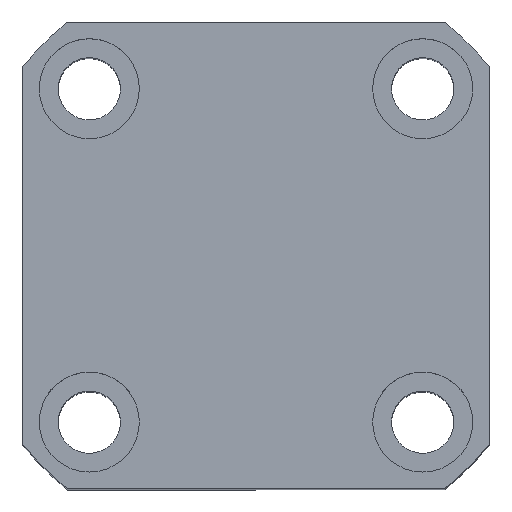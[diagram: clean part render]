
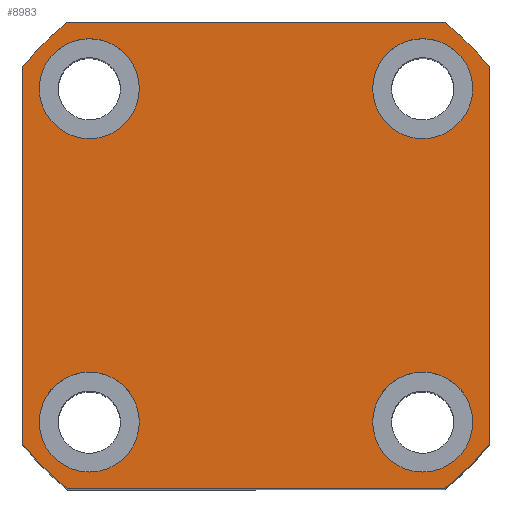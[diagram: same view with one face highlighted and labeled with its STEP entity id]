
A CAD part, top view. The second image highlights one B-rep face of the part: STEP entity #8983.
In plain terms, the highlighted planar face has unit normal (0, 0, 1).
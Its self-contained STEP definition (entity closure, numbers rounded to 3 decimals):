
#107 = EDGE_CURVE ( 'NONE', #10266, #7944, #372, .T. ) ;
#116 = VECTOR ( 'NONE', #1948, 1000. ) ;
#202 = AXIS2_PLACEMENT_3D ( 'NONE', #2018, #7724, #2858 ) ;
#275 = VECTOR ( 'NONE', #5698, 1000. ) ;
#309 = CARTESIAN_POINT ( 'NONE',  ( -10.5, -14.998, 63. ) ) ;
#372 = LINE ( 'NONE', #1250, #116 ) ;
#375 = DIRECTION ( 'NONE',  ( 0., -1., 0. ) ) ;
#453 = DIRECTION ( 'NONE',  ( 0., 0., 1. ) ) ;
#504 = ORIENTED_EDGE ( 'NONE', *, *, #8624, .F. ) ;
#509 = VECTOR ( 'NONE', #4672, 1000. ) ;
#515 = EDGE_CURVE ( 'NONE', #5532, #3886, #2455, .T. ) ;
#659 = VERTEX_POINT ( 'NONE', #7520 ) ;
#695 = CARTESIAN_POINT ( 'NONE',  ( 19.5, 15., 63. ) ) ;
#770 = CARTESIAN_POINT ( 'NONE',  ( -21., -21., 63. ) ) ;
#781 = FACE_OUTER_BOUND ( 'NONE', #9591, .T. ) ;
#821 = VERTEX_POINT ( 'NONE', #7335 ) ;
#894 = EDGE_CURVE ( 'NONE', #5692, #3454, #10474, .T. ) ;
#925 = CIRCLE ( 'NONE', #8745, 4.5 ) ;
#943 = CARTESIAN_POINT ( 'NONE',  ( -15., 15.002, 63. ) ) ;
#1134 = DIRECTION ( 'NONE',  ( 0., 0., 1. ) ) ;
#1208 = CIRCLE ( 'NONE', #4618, 4.5 ) ;
#1250 = CARTESIAN_POINT ( 'NONE',  ( -21., 21., 63. ) ) ;
#1400 = AXIS2_PLACEMENT_3D ( 'NONE', #6027, #1134, #6858 ) ;
#1701 = VERTEX_POINT ( 'NONE', #6986 ) ;
#1779 = DIRECTION ( 'NONE',  ( 1., 0., 0. ) ) ;
#1785 = CARTESIAN_POINT ( 'NONE',  ( -15., -14.998, 63. ) ) ;
#1794 = ORIENTED_EDGE ( 'NONE', *, *, #3921, .F. ) ;
#1825 = EDGE_LOOP ( 'NONE', ( #7089, #6182 ) ) ;
#1885 = VERTEX_POINT ( 'NONE', #2648 ) ;
#1893 = CARTESIAN_POINT ( 'NONE',  ( 0., 0., 63. ) ) ;
#1908 = DIRECTION ( 'NONE',  ( 1., 0., 0. ) ) ;
#1948 = DIRECTION ( 'NONE',  ( -1., 0., 0. ) ) ;
#1958 = CIRCLE ( 'NONE', #5914, 27. ) ;
#1979 = AXIS2_PLACEMENT_3D ( 'NONE', #943, #6670, #1779 ) ;
#2018 = CARTESIAN_POINT ( 'NONE',  ( 15., 15., 63. ) ) ;
#2344 = CARTESIAN_POINT ( 'NONE',  ( -15., -14.998, 63. ) ) ;
#2447 = DIRECTION ( 'NONE',  ( 0., 0., 1. ) ) ;
#2455 = CIRCLE ( 'NONE', #3326, 4.5 ) ;
#2564 = CARTESIAN_POINT ( 'NONE',  ( 15., 15., 63. ) ) ;
#2629 = CIRCLE ( 'NONE', #1400, 4.5 ) ;
#2640 = DIRECTION ( 'NONE',  ( 1., 0., 0. ) ) ;
#2648 = CARTESIAN_POINT ( 'NONE',  ( 16.971, -21., 63. ) ) ;
#2682 = CARTESIAN_POINT ( 'NONE',  ( -21., 21., 63. ) ) ;
#2744 = LINE ( 'NONE', #10323, #509 ) ;
#2858 = DIRECTION ( 'NONE',  ( 1., 0., 0. ) ) ;
#3001 = EDGE_LOOP ( 'NONE', ( #1794, #3004 ) ) ;
#3004 = ORIENTED_EDGE ( 'NONE', *, *, #6100, .F. ) ;
#3023 = FACE_BOUND ( 'NONE', #1825, .T. ) ;
#3060 = EDGE_CURVE ( 'NONE', #1701, #4541, #4401, .T. ) ;
#3107 = EDGE_CURVE ( 'NONE', #5305, #10266, #1958, .T. ) ;
#3165 = CARTESIAN_POINT ( 'NONE',  ( 0., 0., 63. ) ) ;
#3186 = DIRECTION ( 'NONE',  ( 1., 0., 0. ) ) ;
#3252 = DIRECTION ( 'NONE',  ( 0., 0., 1. ) ) ;
#3268 = FACE_BOUND ( 'NONE', #5921, .T. ) ;
#3303 = AXIS2_PLACEMENT_3D ( 'NONE', #5393, #453, #6201 ) ;
#3326 = AXIS2_PLACEMENT_3D ( 'NONE', #2564, #2447, #1908 ) ;
#3343 = EDGE_CURVE ( 'NONE', #3886, #5532, #7166, .T. ) ;
#3409 = CARTESIAN_POINT ( 'NONE',  ( -10.5, 15.002, 63. ) ) ;
#3446 = AXIS2_PLACEMENT_3D ( 'NONE', #1893, #3558, #9232 ) ;
#3454 = VERTEX_POINT ( 'NONE', #3746 ) ;
#3558 = DIRECTION ( 'NONE',  ( 0., 0., 1. ) ) ;
#3616 = ORIENTED_EDGE ( 'NONE', *, *, #894, .F. ) ;
#3641 = VERTEX_POINT ( 'NONE', #6059 ) ;
#3746 = CARTESIAN_POINT ( 'NONE',  ( -19.5, 15.002, 63. ) ) ;
#3849 = CARTESIAN_POINT ( 'NONE',  ( -16.971, -21., 63. ) ) ;
#3886 = VERTEX_POINT ( 'NONE', #7948 ) ;
#3921 = EDGE_CURVE ( 'NONE', #7535, #659, #8201, .T. ) ;
#3954 = CARTESIAN_POINT ( 'NONE',  ( 15., -14.998, 63. ) ) ;
#3971 = DIRECTION ( 'NONE',  ( 1., 0., 0. ) ) ;
#4095 = DIRECTION ( 'NONE',  ( 0., 0., 1. ) ) ;
#4382 = CARTESIAN_POINT ( 'NONE',  ( 16.971, 21., 63. ) ) ;
#4401 = CIRCLE ( 'NONE', #4831, 27. ) ;
#4440 = CARTESIAN_POINT ( 'NONE',  ( -15., 15.002, 63. ) ) ;
#4541 = VERTEX_POINT ( 'NONE', #3849 ) ;
#4618 = AXIS2_PLACEMENT_3D ( 'NONE', #1785, #7500, #2640 ) ;
#4672 = DIRECTION ( 'NONE',  ( 0., 1., 0. ) ) ;
#4714 = CARTESIAN_POINT ( 'NONE',  ( -16.971, 21., 63. ) ) ;
#4763 = DIRECTION ( 'NONE',  ( 1., 0., 0. ) ) ;
#4831 = AXIS2_PLACEMENT_3D ( 'NONE', #8120, #3252, #8925 ) ;
#4872 = ORIENTED_EDGE ( 'NONE', *, *, #8362, .T. ) ;
#5176 = FACE_BOUND ( 'NONE', #3001, .T. ) ;
#5305 = VERTEX_POINT ( 'NONE', #8685 ) ;
#5393 = CARTESIAN_POINT ( 'NONE',  ( 0., 0., 63. ) ) ;
#5532 = VERTEX_POINT ( 'NONE', #695 ) ;
#5537 = ORIENTED_EDGE ( 'NONE', *, *, #10595, .F. ) ;
#5633 = VERTEX_POINT ( 'NONE', #7392 ) ;
#5692 = VERTEX_POINT ( 'NONE', #3409 ) ;
#5698 = DIRECTION ( 'NONE',  ( 1., 0., 0. ) ) ;
#5803 = LINE ( 'NONE', #2682, #10140 ) ;
#5914 = AXIS2_PLACEMENT_3D ( 'NONE', #8962, #4095, #9782 ) ;
#5921 = EDGE_LOOP ( 'NONE', ( #3616, #5537 ) ) ;
#5960 = PLANE ( 'NONE',  #3446 ) ;
#6027 = CARTESIAN_POINT ( 'NONE',  ( 15., -14.998, 63. ) ) ;
#6059 = CARTESIAN_POINT ( 'NONE',  ( 21., -16.971, 63. ) ) ;
#6100 = EDGE_CURVE ( 'NONE', #659, #7535, #1208, .T. ) ;
#6182 = ORIENTED_EDGE ( 'NONE', *, *, #3343, .F. ) ;
#6183 = CARTESIAN_POINT ( 'NONE',  ( -21., 16.971, 63. ) ) ;
#6201 = DIRECTION ( 'NONE',  ( 1., 0., 0. ) ) ;
#6354 = ORIENTED_EDGE ( 'NONE', *, *, #8296, .T. ) ;
#6389 = VERTEX_POINT ( 'NONE', #6183 ) ;
#6649 = ORIENTED_EDGE ( 'NONE', *, *, #8094, .T. ) ;
#6670 = DIRECTION ( 'NONE',  ( 0., 0., 1. ) ) ;
#6698 = CIRCLE ( 'NONE', #7257, 27. ) ;
#6858 = DIRECTION ( 'NONE',  ( 1., 0., 0. ) ) ;
#6986 = CARTESIAN_POINT ( 'NONE',  ( -21., -16.971, 63. ) ) ;
#7089 = ORIENTED_EDGE ( 'NONE', *, *, #515, .F. ) ;
#7128 = AXIS2_PLACEMENT_3D ( 'NONE', #2344, #8050, #3186 ) ;
#7145 = ORIENTED_EDGE ( 'NONE', *, *, #3060, .T. ) ;
#7166 = CIRCLE ( 'NONE', #202, 4.5 ) ;
#7174 = EDGE_CURVE ( 'NONE', #1885, #3641, #6698, .T. ) ;
#7257 = AXIS2_PLACEMENT_3D ( 'NONE', #3165, #8838, #3971 ) ;
#7332 = AXIS2_PLACEMENT_3D ( 'NONE', #4440, #8386, #7629 ) ;
#7335 = CARTESIAN_POINT ( 'NONE',  ( 19.5, -14.998, 63. ) ) ;
#7392 = CARTESIAN_POINT ( 'NONE',  ( 10.5, -14.998, 63. ) ) ;
#7464 = ORIENTED_EDGE ( 'NONE', *, *, #107, .T. ) ;
#7500 = DIRECTION ( 'NONE',  ( 0., 0., 1. ) ) ;
#7520 = CARTESIAN_POINT ( 'NONE',  ( -19.5, -14.998, 63. ) ) ;
#7535 = VERTEX_POINT ( 'NONE', #309 ) ;
#7581 = FACE_BOUND ( 'NONE', #8352, .T. ) ;
#7629 = DIRECTION ( 'NONE',  ( 1., 0., 0. ) ) ;
#7686 = ORIENTED_EDGE ( 'NONE', *, *, #8510, .F. ) ;
#7717 = CIRCLE ( 'NONE', #3303, 27. ) ;
#7724 = DIRECTION ( 'NONE',  ( 0., 0., 1. ) ) ;
#7944 = VERTEX_POINT ( 'NONE', #4714 ) ;
#7948 = CARTESIAN_POINT ( 'NONE',  ( 10.5, 15., 63. ) ) ;
#8050 = DIRECTION ( 'NONE',  ( 0., 0., 1. ) ) ;
#8094 = EDGE_CURVE ( 'NONE', #4541, #1885, #8993, .T. ) ;
#8120 = CARTESIAN_POINT ( 'NONE',  ( 0., 0., 63. ) ) ;
#8201 = CIRCLE ( 'NONE', #7128, 4.5 ) ;
#8296 = EDGE_CURVE ( 'NONE', #6389, #1701, #5803, .T. ) ;
#8352 = EDGE_LOOP ( 'NONE', ( #504, #7686 ) ) ;
#8362 = EDGE_CURVE ( 'NONE', #7944, #6389, #7717, .T. ) ;
#8386 = DIRECTION ( 'NONE',  ( 0., 0., 1. ) ) ;
#8510 = EDGE_CURVE ( 'NONE', #5633, #821, #925, .T. ) ;
#8624 = EDGE_CURVE ( 'NONE', #821, #5633, #2629, .T. ) ;
#8655 = ORIENTED_EDGE ( 'NONE', *, *, #3107, .T. ) ;
#8685 = CARTESIAN_POINT ( 'NONE',  ( 21., 16.971, 63. ) ) ;
#8745 = AXIS2_PLACEMENT_3D ( 'NONE', #3954, #9631, #4763 ) ;
#8838 = DIRECTION ( 'NONE',  ( 0., 0., 1. ) ) ;
#8840 = ORIENTED_EDGE ( 'NONE', *, *, #7174, .T. ) ;
#8925 = DIRECTION ( 'NONE',  ( 1., 0., 0. ) ) ;
#8962 = CARTESIAN_POINT ( 'NONE',  ( 0., 0., 63. ) ) ;
#8983 = ADVANCED_FACE ( 'NONE', ( #3268, #5176, #7581, #3023, #781 ), #5960, .T. ) ;
#8993 = LINE ( 'NONE', #770, #275 ) ;
#9232 = DIRECTION ( 'NONE',  ( 1., 0., 0. ) ) ;
#9237 = ORIENTED_EDGE ( 'NONE', *, *, #9807, .T. ) ;
#9362 = CIRCLE ( 'NONE', #1979, 4.5 ) ;
#9591 = EDGE_LOOP ( 'NONE', ( #9237, #8655, #7464, #4872, #6354, #7145, #6649, #8840 ) ) ;
#9631 = DIRECTION ( 'NONE',  ( 0., 0., 1. ) ) ;
#9782 = DIRECTION ( 'NONE',  ( 1., 0., 0. ) ) ;
#9807 = EDGE_CURVE ( 'NONE', #3641, #5305, #2744, .T. ) ;
#10140 = VECTOR ( 'NONE', #375, 1000. ) ;
#10266 = VERTEX_POINT ( 'NONE', #4382 ) ;
#10323 = CARTESIAN_POINT ( 'NONE',  ( 21., 21., 63. ) ) ;
#10474 = CIRCLE ( 'NONE', #7332, 4.5 ) ;
#10595 = EDGE_CURVE ( 'NONE', #3454, #5692, #9362, .T. ) ;
